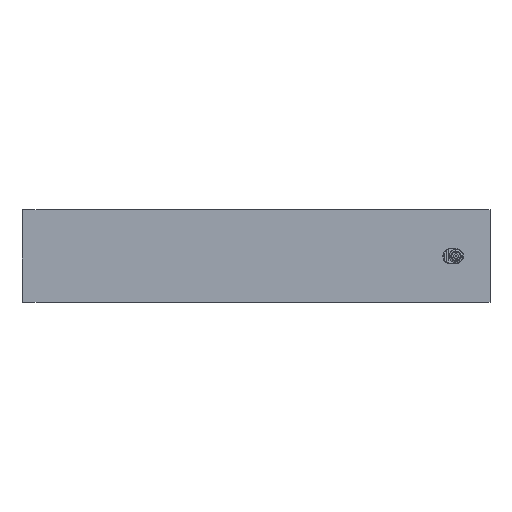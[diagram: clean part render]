
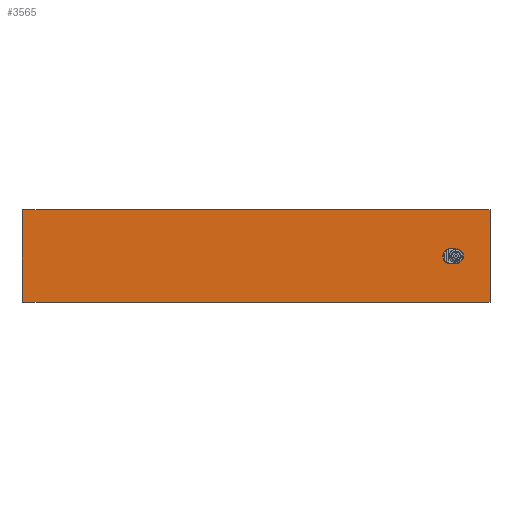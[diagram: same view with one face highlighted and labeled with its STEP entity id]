
A CAD part, top view. The second image highlights one B-rep face of the part: STEP entity #3565.
In plain terms, the highlighted planar face has unit normal (0, 0, 1).
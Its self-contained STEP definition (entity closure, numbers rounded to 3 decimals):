
#29 = AXIS2_PLACEMENT_3D ( 'NONE', #990, #7290, #5260 ) ;
#283 = ORIENTED_EDGE ( 'NONE', *, *, #3769, .T. ) ;
#436 = DIRECTION ( 'NONE',  ( 0., 1., 0. ) ) ;
#755 = VECTOR ( 'NONE', #5824, 1000. ) ;
#769 = CARTESIAN_POINT ( 'NONE',  ( 397.88, 53.603, 998.163 ) ) ;
#855 = DIRECTION ( 'NONE',  ( 0., -1., 0. ) ) ;
#890 = AXIS2_PLACEMENT_3D ( 'NONE', #10451, #13765, #855 ) ;
#894 = EDGE_LOOP ( 'NONE', ( #7001, #12405, #8426, #4937, #11385, #283, #903, #1711 ) ) ;
#903 = ORIENTED_EDGE ( 'NONE', *, *, #3368, .T. ) ;
#990 = CARTESIAN_POINT ( 'NONE',  ( 385.88, 69.603, 998.163 ) ) ;
#1070 = CARTESIAN_POINT ( 'NONE',  ( -27.27, 167.953, 998.163 ) ) ;
#1127 = EDGE_CURVE ( 'NONE', #8102, #2122, #4440, .T. ) ;
#1251 = VERTEX_POINT ( 'NONE', #1375 ) ;
#1375 = CARTESIAN_POINT ( 'NONE',  ( -524.77, -28.047, 998.163 ) ) ;
#1459 = LINE ( 'NONE', #12248, #9440 ) ;
#1465 = CARTESIAN_POINT ( 'NONE',  ( 380.88, 55.146, 998.163 ) ) ;
#1473 = FACE_OUTER_BOUND ( 'NONE', #11326, .T. ) ;
#1532 = VERTEX_POINT ( 'NONE', #1919 ) ;
#1701 = VERTEX_POINT ( 'NONE', #1465 ) ;
#1711 = ORIENTED_EDGE ( 'NONE', *, *, #6805, .F. ) ;
#1913 = DIRECTION ( 'NONE',  ( 0., 0., -1. ) ) ;
#1919 = CARTESIAN_POINT ( 'NONE',  ( 380.88, 84.06, 998.163 ) ) ;
#1947 = VERTEX_POINT ( 'NONE', #5339 ) ;
#2093 = LINE ( 'NONE', #12841, #4325 ) ;
#2122 = VERTEX_POINT ( 'NONE', #8132 ) ;
#2182 = DIRECTION ( 'NONE',  ( 1., 0., 0. ) ) ;
#2250 = AXIS2_PLACEMENT_3D ( 'NONE', #5343, #1913, #11720 ) ;
#2459 = AXIS2_PLACEMENT_3D ( 'NONE', #7802, #12929, #5701 ) ;
#2535 = CARTESIAN_POINT ( 'NONE',  ( -27.27, -28.047, 998.163 ) ) ;
#2570 = DIRECTION ( 'NONE',  ( 1., 0., 0. ) ) ;
#2686 = LINE ( 'NONE', #6970, #6059 ) ;
#2904 = EDGE_CURVE ( 'NONE', #1947, #7399, #8525, .T. ) ;
#2906 = VERTEX_POINT ( 'NONE', #7389 ) ;
#3059 = DIRECTION ( 'NONE',  ( -1., 0., 0. ) ) ;
#3368 = EDGE_CURVE ( 'NONE', #11057, #12451, #6762, .T. ) ;
#3565 = ADVANCED_FACE ( 'NONE', ( #1473, #7926 ), #12136, .T. ) ;
#3769 = EDGE_CURVE ( 'NONE', #7399, #11057, #6091, .T. ) ;
#3852 = DIRECTION ( 'NONE',  ( 0., 0., 1. ) ) ;
#4111 = EDGE_CURVE ( 'NONE', #1251, #8102, #1459, .T. ) ;
#4325 = VECTOR ( 'NONE', #10859, 1000. ) ;
#4440 = LINE ( 'NONE', #1070, #8469 ) ;
#4503 = CARTESIAN_POINT ( 'NONE',  ( 385.88, 53.603, 998.163 ) ) ;
#4580 = VERTEX_POINT ( 'NONE', #8553 ) ;
#4937 = ORIENTED_EDGE ( 'NONE', *, *, #5314, .T. ) ;
#5260 = DIRECTION ( 'NONE',  ( 0., 1., 0. ) ) ;
#5314 = EDGE_CURVE ( 'NONE', #4580, #1947, #5793, .T. ) ;
#5339 = CARTESIAN_POINT ( 'NONE',  ( 397.88, 85.603, 998.163 ) ) ;
#5343 = CARTESIAN_POINT ( 'NONE',  ( 397.88, 69.603, 998.163 ) ) ;
#5701 = DIRECTION ( 'NONE',  ( 0., 1., 0. ) ) ;
#5793 = LINE ( 'NONE', #7970, #12514 ) ;
#5824 = DIRECTION ( 'NONE',  ( -1., 0., 0. ) ) ;
#5860 = ORIENTED_EDGE ( 'NONE', *, *, #4111, .F. ) ;
#6059 = VECTOR ( 'NONE', #9270, 1000. ) ;
#6064 = VERTEX_POINT ( 'NONE', #7425 ) ;
#6091 = LINE ( 'NONE', #13804, #7874 ) ;
#6523 = AXIS2_PLACEMENT_3D ( 'NONE', #7858, #3852, #6941 ) ;
#6708 = CIRCLE ( 'NONE', #890, 1. ) ;
#6762 = CIRCLE ( 'NONE', #29, 16. ) ;
#6805 = EDGE_CURVE ( 'NONE', #1701, #12451, #7845, .T. ) ;
#6941 = DIRECTION ( 'NONE',  ( 0., -1., 0. ) ) ;
#6970 = CARTESIAN_POINT ( 'NONE',  ( 380.88, 53.603, 998.163 ) ) ;
#7001 = ORIENTED_EDGE ( 'NONE', *, *, #13711, .T. ) ;
#7290 = DIRECTION ( 'NONE',  ( 0., 0., -1. ) ) ;
#7389 = CARTESIAN_POINT ( 'NONE',  ( 381.614, 85.024, 998.163 ) ) ;
#7399 = VERTEX_POINT ( 'NONE', #769 ) ;
#7425 = CARTESIAN_POINT ( 'NONE',  ( 470.23, -28.047, 998.163 ) ) ;
#7802 = CARTESIAN_POINT ( 'NONE',  ( 381.88, 55.146, 998.163 ) ) ;
#7845 = CIRCLE ( 'NONE', #2459, 1. ) ;
#7858 = CARTESIAN_POINT ( 'NONE',  ( 238.88, -809.397, 998.163 ) ) ;
#7874 = VECTOR ( 'NONE', #3059, 1000. ) ;
#7926 = FACE_BOUND ( 'NONE', #894, .T. ) ;
#7970 = CARTESIAN_POINT ( 'NONE',  ( 413.88, 85.603, 998.163 ) ) ;
#8102 = VERTEX_POINT ( 'NONE', #8988 ) ;
#8132 = CARTESIAN_POINT ( 'NONE',  ( 470.23, 167.953, 998.163 ) ) ;
#8426 = ORIENTED_EDGE ( 'NONE', *, *, #11113, .T. ) ;
#8469 = VECTOR ( 'NONE', #2182, 1000. ) ;
#8525 = CIRCLE ( 'NONE', #2250, 16. ) ;
#8553 = CARTESIAN_POINT ( 'NONE',  ( 385.88, 85.603, 998.163 ) ) ;
#8556 = CIRCLE ( 'NONE', #9007, 16. ) ;
#8988 = CARTESIAN_POINT ( 'NONE',  ( -524.77, 167.953, 998.163 ) ) ;
#9007 = AXIS2_PLACEMENT_3D ( 'NONE', #13339, #11148, #436 ) ;
#9149 = DIRECTION ( 'NONE',  ( 0., 1., 0. ) ) ;
#9270 = DIRECTION ( 'NONE',  ( 0., 1., 0. ) ) ;
#9440 = VECTOR ( 'NONE', #9149, 1000. ) ;
#9774 = EDGE_CURVE ( 'NONE', #2906, #1532, #6708, .T. ) ;
#10451 = CARTESIAN_POINT ( 'NONE',  ( 381.88, 84.06, 998.163 ) ) ;
#10461 = ORIENTED_EDGE ( 'NONE', *, *, #11407, .F. ) ;
#10719 = ORIENTED_EDGE ( 'NONE', *, *, #1127, .F. ) ;
#10859 = DIRECTION ( 'NONE',  ( 0., -1., 0. ) ) ;
#11057 = VERTEX_POINT ( 'NONE', #4503 ) ;
#11113 = EDGE_CURVE ( 'NONE', #2906, #4580, #8556, .T. ) ;
#11148 = DIRECTION ( 'NONE',  ( 0., 0., -1. ) ) ;
#11326 = EDGE_LOOP ( 'NONE', ( #10461, #10719, #5860, #12428 ) ) ;
#11385 = ORIENTED_EDGE ( 'NONE', *, *, #2904, .T. ) ;
#11407 = EDGE_CURVE ( 'NONE', #2122, #6064, #2093, .T. ) ;
#11522 = CARTESIAN_POINT ( 'NONE',  ( 381.614, 54.183, 998.163 ) ) ;
#11720 = DIRECTION ( 'NONE',  ( 0., 1., 0. ) ) ;
#12136 = PLANE ( 'NONE',  #6523 ) ;
#12248 = CARTESIAN_POINT ( 'NONE',  ( -524.77, 69.953, 998.163 ) ) ;
#12353 = EDGE_CURVE ( 'NONE', #6064, #1251, #13404, .T. ) ;
#12405 = ORIENTED_EDGE ( 'NONE', *, *, #9774, .F. ) ;
#12428 = ORIENTED_EDGE ( 'NONE', *, *, #12353, .F. ) ;
#12451 = VERTEX_POINT ( 'NONE', #11522 ) ;
#12514 = VECTOR ( 'NONE', #2570, 1000. ) ;
#12841 = CARTESIAN_POINT ( 'NONE',  ( 470.23, 69.953, 998.163 ) ) ;
#12929 = DIRECTION ( 'NONE',  ( 0., 0., 1. ) ) ;
#13339 = CARTESIAN_POINT ( 'NONE',  ( 385.88, 69.603, 998.163 ) ) ;
#13404 = LINE ( 'NONE', #2535, #755 ) ;
#13711 = EDGE_CURVE ( 'NONE', #1701, #1532, #2686, .T. ) ;
#13765 = DIRECTION ( 'NONE',  ( 0., 0., 1. ) ) ;
#13804 = CARTESIAN_POINT ( 'NONE',  ( 413.88, 53.603, 998.163 ) ) ;
